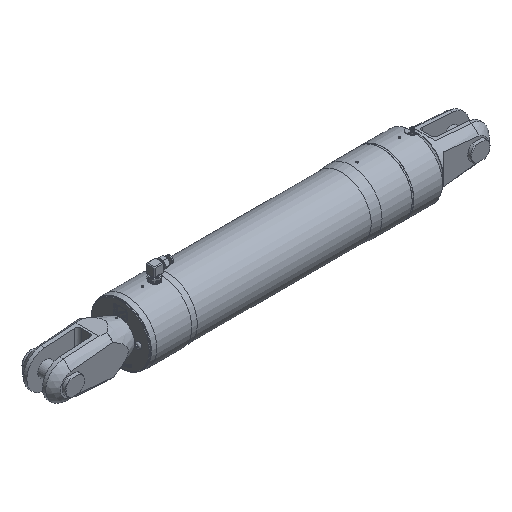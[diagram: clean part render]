
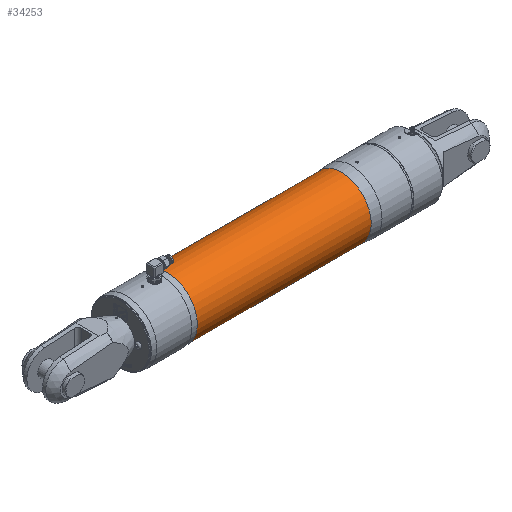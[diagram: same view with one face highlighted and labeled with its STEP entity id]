
A CAD part, isometric view. The second image highlights one B-rep face of the part: STEP entity #34253.
In plain terms, the highlighted cylindrical face has radius 85.7 mm (diameter 171.4 mm), a full revolution.
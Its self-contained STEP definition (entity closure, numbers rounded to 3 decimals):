
#4797=LINE('',#62136,#7769);
#7769=VECTOR('',#41297,85.7);
#8084=CYLINDRICAL_SURFACE('',#35731,85.7);
#11433=FACE_OUTER_BOUND('',#13357,.T.);
#13357=EDGE_LOOP('',(#30419,#30420,#30421,#30422,#30423,#30424));
#13871=CIRCLE('',#35728,85.7);
#13872=CIRCLE('',#35729,85.7);
#13874=CIRCLE('',#35732,85.7);
#13875=CIRCLE('',#35733,85.7);
#16876=VERTEX_POINT('',#62128);
#16877=VERTEX_POINT('',#62130);
#16878=VERTEX_POINT('',#62135);
#16879=VERTEX_POINT('',#62137);
#21457=EDGE_CURVE('',#16877,#16876,#13871,.T.);
#21458=EDGE_CURVE('',#16876,#16877,#13872,.T.);
#21460=EDGE_CURVE('',#16876,#16878,#4797,.T.);
#21461=EDGE_CURVE('',#16879,#16878,#13874,.T.);
#21462=EDGE_CURVE('',#16878,#16879,#13875,.T.);
#30419=ORIENTED_EDGE('',*,*,#21457,.T.);
#30420=ORIENTED_EDGE('',*,*,#21460,.T.);
#30421=ORIENTED_EDGE('',*,*,#21461,.F.);
#30422=ORIENTED_EDGE('',*,*,#21462,.F.);
#30423=ORIENTED_EDGE('',*,*,#21460,.F.);
#30424=ORIENTED_EDGE('',*,*,#21458,.T.);
#34253=ADVANCED_FACE('',(#11433),#8084,.T.);
#35728=AXIS2_PLACEMENT_3D('',#62131,#41289,#41290);
#35729=AXIS2_PLACEMENT_3D('',#62132,#41291,#41292);
#35731=AXIS2_PLACEMENT_3D('',#62134,#41295,#41296);
#35732=AXIS2_PLACEMENT_3D('',#62138,#41298,#41299);
#35733=AXIS2_PLACEMENT_3D('',#62139,#41300,#41301);
#41289=DIRECTION('center_axis',(1.,0.,0.));
#41290=DIRECTION('ref_axis',(0.,0.,
-1.));
#41291=DIRECTION('center_axis',(1.,0.,0.));
#41292=DIRECTION('ref_axis',(0.,0.,
-1.));
#41295=DIRECTION('center_axis',(1.,0.,0.));
#41296=DIRECTION('ref_axis',(0.,0.,
1.));
#41297=DIRECTION('',(1.,0.,0.));
#41298=DIRECTION('center_axis',(1.,0.,0.));
#41299=DIRECTION('ref_axis',(0.,0.,
-1.));
#41300=DIRECTION('center_axis',(1.,0.,0.));
#41301=DIRECTION('ref_axis',(0.,0.,
-1.));
#62128=CARTESIAN_POINT('',(-605.734,0.,-85.7));
#62130=CARTESIAN_POINT('',(-605.734,0.,85.7));
#62131=CARTESIAN_POINT('Origin',(-605.734,0.,
0.));
#62132=CARTESIAN_POINT('Origin',(-605.734,0.,
0.));
#62134=CARTESIAN_POINT('Origin',(-355.752,0.,
0.));
#62135=CARTESIAN_POINT('',(-105.769,0.,-85.7));
#62136=CARTESIAN_POINT('',(-355.752,0.,-85.7));
#62137=CARTESIAN_POINT('',(-105.769,0.,85.7));
#62138=CARTESIAN_POINT('Origin',(-105.769,0.,
0.));
#62139=CARTESIAN_POINT('Origin',(-105.769,0.,
0.));
